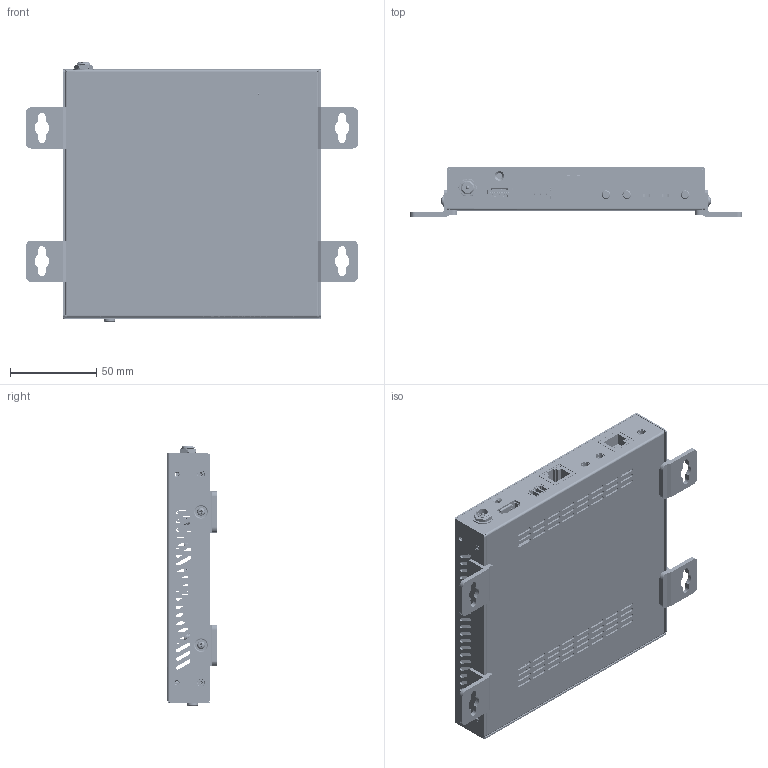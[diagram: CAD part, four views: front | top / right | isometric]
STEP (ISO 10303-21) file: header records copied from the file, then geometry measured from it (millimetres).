
FILE_DESCRIPTION((''),'2;1');
FILE_NAME('00_IP6000LAS-D50_ASM_6_ASM','2023-06-05T17:20:55',('Proitav'),(''),'CREO PARAMETRIC BY PTC INC, 2018050','CREO PARAMETRIC BY PTC INC, 2018050','');
FILE_SCHEMA(('CONFIG_CONTROL_DESIGN','GEOMETRIC_VALIDATION_PROPERTIES_MIM'));
Products named in the file (46): IP6000LAS-D50-BASE_68; BSO-M3-5_5; BSO-M3-10_3; IP6000LAS-D50-BASE_ASM_25_ASM; IPD6000LAS-D50-COVER_83; IPD6000LAS-D50-COVER_ASM_6_ASM; IPD6000LAS-000-PCB_69; DC_H0100DC001200_5_1; DC_H0100DC001200_5_2; DC_H0100DC001200_5_3; DC_H0100DC001200_5_ASM; DC_GASKET_3; DC_NUT_3; DC_SCREW_ASM_3_ASM; HDMI_H000019PFS000_4; RJ45_H0600AQXN3F13_3_1; RJ45_H0600AQXN3F13_3_2; RJ45_H0600AQXN3F13_3_3; RJ45_H0600AQXN3F13_3_4; RJ45_H0600AQXN3F13_3_5; RJ45_H0600AQXN3F13_3_6; RJ45_H0600AQXN3F13_3_7; RJ45_H0600AQXN3F13_3_ASM; IR_H0400PJ301100_3; RJ45_H060097428800_4; LED_TIEPIAN_3; KFC_M0800GB169700_3; KFC_J0201V0730600_3; LIANJIEQI-MUTOU_3; JIAODING_3; TANHUANG_3; KK-TH_ASM_3_ASM; 352314-SRP_4; 484514-SRP_3; J110118181300_4; J110113131400_2; 20X20X4_5_1; PHOENIX3-3_5_H140310FHD000_1; FANM-ZUO_1; IPD6000LAS-000-PCB_ASM_73_ASM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
Assembly tree (74 placements, depth 6):
  00_IP6000LAS-D50_ASM_6_ASM
    00_IPD6000LAS-D50_ASM_14_ASM
      IP6000LAS-D50-BASE_ASM_25_ASM
        IP6000LAS-D50-BASE_68
        BSO-M3-5_5  x5
        BSO-M3-10_3
      IPD6000LAS-D50-COVER_ASM_6_ASM
        IPD6000LAS-D50-COVER_83
      IPD6000LAS-000-PCB_ASM_73_ASM
        IPD6000LAS-000-PCB_69
        DC_SCREW_ASM_3_ASM
          DC_H0100DC001200_5_ASM
            DC_H0100DC001200_5_1
            DC_H0100DC001200_5_2
            DC_H0100DC001200_5_3
          DC_GASKET_3
          DC_NUT_3
        HDMI_H000019PFS000_4
        RJ45_H0600AQXN3F13_3_ASM
          RJ45_H0600AQXN3F13_3_1
          RJ45_H0600AQXN3F13_3_2
          RJ45_H0600AQXN3F13_3_3
          RJ45_H0600AQXN3F13_3_4
          RJ45_H0600AQXN3F13_3_5
          RJ45_H0600AQXN3F13_3_6
          RJ45_H0600AQXN3F13_3_7
        IR_H0400PJ301100_3  x3
        RJ45_H060097428800_4
        LED_TIEPIAN_3  x6
        KFC_M0800GB169700_3
        KFC_J0201V0730600_3
        LIANJIEQI-MUTOU_3  x2
        KK-TH_ASM_3_ASM  x4
          JIAODING_3
          TANHUANG_3
        352314-SRP_4
        484514-SRP_3
        J110118181300_4
        J110113131400_2  x2
        20X20X4_5_1  x5
        PHOENIX3-3_5_H140310FHD000_1
        FANM-ZUO_1
      XIAO-PCB_3
    M1400M25L0500  x4
    M0400PA015000  x4
    M1400M25L5000  x4
Bounding box: 193 x 28.5 x 150.95 mm (x, y, z)
Volume: 148567.5 mm3; surface area: 215164.5 mm2
Topology: 69 solids, 69 shells, 4737 faces, 13149 edges, 8658 vertices
Faces by surface type: plane 3132, cylinder 1223, bspline 149, cone 106, torus 84, extrusion 21, sphere 18, revolution 4
Entity records: 199141 total; most frequent: CARTESIAN_POINT 68365, ORIENTED_EDGE 21914, DIRECTION 21106, EDGE_CURVE 10957, VECTOR 8264, LINE 8243, VERTEX_POINT 7188, AXIS2_PLACEMENT_3D 6419
